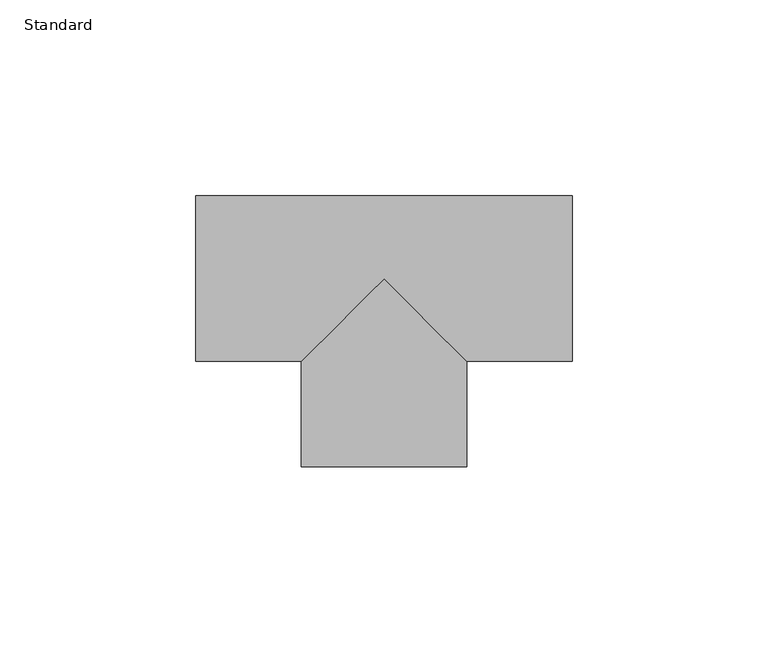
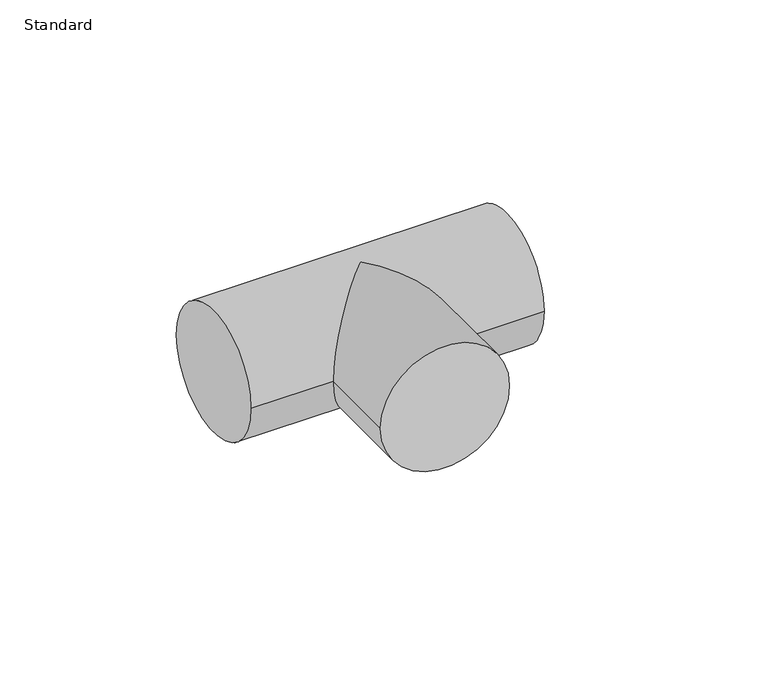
"""IFC4 building model written with IfcOpenShell, lengths in millimetres: pipe fitting geometry, Té - Générique : Standard."""

import ifcopenshell
import ifcopenshell.guid

model = None  # the IFC model being written
_history = None  # IfcOwnerHistory: only IFC2X3 demands one
_inside = {}  # id of a spatial element -> (the spatial element, [elements in it])
_under = {}  # id of a project, library or spatial element -> (it, [spatial elements below it])
_declared = {}  # id of a project -> (the project, [libraries it declares])
_typed = {}  # id of a type object -> (the type object, [elements of that type])
_made_of = {}  # id of a material, layer set ... -> (it, [elements and type objects made of it])


def new_model(schema):
    """Start an empty IFC model of exactly this schema.

    Asked for "IFC4X3", IfcOpenShell would pick the latest addendum, in which some entities
    have other attributes; the version numbers below select the first issue.
    IFC2X3 requires an IfcOwnerHistory on every rooted entity: one is made here for all.
    """
    global model, _history
    if schema == "IFC4X3":
        model = ifcopenshell.file(schema_version=(4, 3, 0, 0))
    else:
        model = ifcopenshell.file(schema=schema)
    _inside.clear()
    _under.clear()
    _declared.clear()
    _typed.clear()
    _made_of.clear()
    _history = None
    if model.schema == "IFC2X3":
        org = make("IfcOrganization", Name="unknown")
        user = make(
            "IfcPersonAndOrganization",
            ThePerson=make("IfcPerson", FamilyName="unknown"),
            TheOrganization=org,
        )
        app = make(
            "IfcApplication",
            ApplicationDeveloper=org,
            Version="unknown",
            ApplicationFullName="unknown",
            ApplicationIdentifier="unknown",
        )
        _history = make(
            "IfcOwnerHistory",
            OwningUser=user,
            OwningApplication=app,
            ChangeAction="ADDED",
            CreationDate=0,
        )
    return model


def make(cls, **values):
    """One entity of the class cls with the attributes given. An attribute that is None is left unset."""
    return model.create_entity(
        cls, **{name: value for name, value in values.items() if value is not None}
    )


def rooted(cls, **values):
    """An entity with a GlobalId (a new one), such as an element, a storey or a relation."""
    return make(cls, GlobalId=ifcopenshell.guid.new(), OwnerHistory=_history, **values)


def si_unit(unit_type, name, prefix=None):
    """IfcSIUnit, for example si_unit("LENGTHUNIT", "METRE", prefix="MILLI")."""
    return make("IfcSIUnit", UnitType=unit_type, Prefix=prefix, Name=name)


def assignment(units):
    """IfcUnitAssignment: the units of a project."""
    return None if units is None else make("IfcUnitAssignment", Units=units)


def point(xyz):
    """IfcCartesianPoint."""
    return None if xyz is None else make("IfcCartesianPoint", Coordinates=xyz)


def direction(xyz):
    """IfcDirection."""
    return None if xyz is None else make("IfcDirection", DirectionRatios=xyz)


def frame(location, z_axis=None, x_axis=None):
    """IfcAxis2Placement3D, a coordinate frame: its origin and axes. An axis left out is left unset."""
    return make(
        "IfcAxis2Placement3D",
        Location=point(location),
        Axis=direction(z_axis),
        RefDirection=direction(x_axis),
    )


def origin():
    """The frame at (0, 0, 0) with its axes left unset."""
    return frame((0.0, 0.0, 0.0))


def place(relative_to, where):
    """IfcLocalPlacement: puts the frame where relative to a parent placement (None: the world)."""
    return make(
        "IfcLocalPlacement", PlacementRelTo=relative_to, RelativePlacement=where
    )


def context(
    kind, dimensions, precision=None, world=None, true_north=None, identifier=None
):
    """IfcGeometricRepresentationContext, for example the 3D "Model" context."""
    return make(
        "IfcGeometricRepresentationContext",
        ContextIdentifier=identifier,
        ContextType=kind,
        CoordinateSpaceDimension=dimensions,
        Precision=precision,
        WorldCoordinateSystem=world,
        TrueNorth=true_north,
    )


def project(units=None, contexts=None):
    """IfcProject with its units and contexts."""
    return rooted(
        "IfcProject",
        Name="project",
        RepresentationContexts=contexts,
        UnitsInContext=assignment(units),
    )


def spatial(cls, under=None, at=None, **own):
    """A site, building, storey or space (cls), placed at a placement, below another one or the project."""
    s = rooted(cls, ObjectPlacement=at, **own)
    if under is not None:
        _under.setdefault(under.id(), (under, []))[1].append(s)
    return s


def circle_curve(where, radius):
    """IfcCircle in the frame where."""
    return make("IfcCircle", Position=where, Radius=radius)


def ellipse_curve(where, semi_axis1, semi_axis2):
    """IfcEllipse in the frame where."""
    return make(
        "IfcEllipse", Position=where, SemiAxis1=semi_axis1, SemiAxis2=semi_axis2
    )


def shape(context_of_items, identifier, shape_type, items):
    """IfcShapeRepresentation: the items that make up one representation, for example the "Body"."""
    return make(
        "IfcShapeRepresentation",
        ContextOfItems=context_of_items,
        RepresentationIdentifier=identifier,
        RepresentationType=shape_type,
        Items=items,
    )


def source(mapping_origin, context_of_items, identifier, shape_type, items):
    """IfcRepresentationMap: a shape defined once, which mapped items show again and again."""
    return make(
        "IfcRepresentationMap",
        MappingOrigin=mapping_origin,
        MappedRepresentation=shape(context_of_items, identifier, shape_type, items),
    )


def transform(
    local_origin,
    x_axis=None,
    y_axis=None,
    z_axis=None,
    scale=None,
    scale2=None,
    scale3=None,
    uniform=True,
):
    """IfcCartesianTransformationOperator3D, or its non-uniform kind. x_axis, y_axis, z_axis: its Axis1, 2, 3."""
    if uniform:
        return make(
            "IfcCartesianTransformationOperator3D",
            Axis1=direction(x_axis),
            Axis2=direction(y_axis),
            LocalOrigin=point(local_origin),
            Scale=scale,
            Axis3=direction(z_axis),
        )
    return make(
        "IfcCartesianTransformationOperator3DnonUniform",
        Axis1=direction(x_axis),
        Axis2=direction(y_axis),
        LocalOrigin=point(local_origin),
        Scale=scale,
        Axis3=direction(z_axis),
        Scale2=scale2,
        Scale3=scale3,
    )


def mapped(mapping_source, mapping_target):
    """IfcMappedItem: shows the shape of a source again, moved by a transform."""
    return make(
        "IfcMappedItem", MappingSource=mapping_source, MappingTarget=mapping_target
    )


def made_of(thing, what):
    """Note that an element or type object is made of a material, layer set ...; save() writes the relation."""
    if what is not None:
        _made_of.setdefault(what.id(), (what, []))[1].append(thing)
    return thing


def element(
    cls,
    number,
    at=None,
    inside=None,
    cuts=None,
    type_object=None,
    material=None,
    context=None,
    identifier="Body",
    shape_type=None,
    held_by="IfcProductDefinitionShape",
    body=None,
    shapes=None,
    **own,
):
    """One element of the class cls, such as IfcWall. Its Tag is "e" and its number.

    at: its placement. inside: the storey or other place that contains it. cuts: it is an
    opening in that element (IfcRelVoidsElement). A single representation is given by context,
    identifier, shape_type and body (its items); several are given by shapes. held_by: the class
    of the entity that holds the representations. save() writes the other relations.
    """
    e = rooted(cls, Tag="e%d" % number, ObjectPlacement=at, **own)
    if body is not None:
        shapes = [shape(context, identifier, shape_type, body)]
    if shapes is not None:
        e.Representation = make(held_by, Representations=shapes)
    if inside is not None:
        _inside.setdefault(inside.id(), (inside, []))[1].append(e)
    if cuts is not None:
        rooted(
            "IfcRelVoidsElement", RelatingBuildingElement=cuts, RelatedOpeningElement=e
        )
    if type_object is not None:
        _typed.setdefault(type_object.id(), (type_object, []))[1].append(e)
    return made_of(e, material)


def aggregate(whole, parts):
    """IfcRelAggregates: a whole, such as a stair, and the parts it consists of."""
    return rooted("IfcRelAggregates", RelatingObject=whole, RelatedObjects=parts)


def save(model, path):
    """Write the relations noted so far, then the file.

    IfcRelAggregates (storeys below a building ...), IfcRelContainedInSpatialStructure (elements
    in a storey), IfcRelDefinesByType, IfcRelAssociatesMaterial and IfcRelDeclares: one each for
    every whole, place, type object, material and project.
    """
    for whole, parts in _under.values():
        aggregate(whole, parts)
    for where, things in _inside.values():
        rooted(
            "IfcRelContainedInSpatialStructure",
            RelatedElements=things,
            RelatingStructure=where,
        )
    for kind, things in _typed.values():
        rooted("IfcRelDefinesByType", RelatedObjects=things, RelatingType=kind)
    for what, things in _made_of.values():
        rooted("IfcRelAssociatesMaterial", RelatedObjects=things, RelatingMaterial=what)
    for by, libraries in _declared.values():
        rooted("IfcRelDeclares", RelatingContext=by, RelatedDefinitions=libraries)
    model.write(path)


def plane_surface(at):
    """IfcPlane: the flat surface through the origin of the frame at, square to its z axis."""
    return make("IfcPlane", Position=at)


def cylinder_surface(at, radius):
    """IfcCylindricalSurface: all points at the distance radius from the z axis of the frame at."""
    return make("IfcCylindricalSurface", Position=at, Radius=radius)


def advanced_brep(points, edges, surfaces, faces):
    """IfcAdvancedBrep: a solid bounded by faces that lie on surfaces and meet in shared edges.

    An edge is (start, end): straight between two places in points (the first is 0);
    or (start, end, curve); or (start, end, curve, False) where it runs against its curve.
    A face is (place in surfaces, loops), or (place, loops, False) where it looks against
    its surface's normal. A loop lists edges by number (the first is 1), with a minus sign
    where the edge is run from its end to its start. The first loop is the outer one.
    """
    corners = [point(p) for p in points]
    vertices = [make("IfcVertexPoint", VertexGeometry=c) for c in corners]
    made = []
    for start, end, *more in edges:
        made.append(
            make(
                "IfcEdgeCurve",
                EdgeStart=vertices[start],
                EdgeEnd=vertices[end],
                EdgeGeometry=more[0] if more else make("IfcPolyline", Points=[corners[start], corners[end]]),
                SameSense=more[1] if len(more) > 1 else True,
            )
        )
    hull = []
    for where, loops, *sense in faces:
        bounds = []
        for j, loop in enumerate(loops):
            ring = [make("IfcOrientedEdge", EdgeElement=made[abs(k) - 1], Orientation=k > 0) for k in loop]
            bounds.append(
                make(
                    "IfcFaceOuterBound" if j == 0 else "IfcFaceBound",
                    Bound=make("IfcEdgeLoop", EdgeList=ring),
                    Orientation=True,
                )
            )
        hull.append(make("IfcAdvancedFace", Bounds=bounds, FaceSurface=surfaces[where], SameSense=sense[0] if sense else True))
    return make("IfcAdvancedBrep", Outer=make("IfcClosedShell", CfsFaces=hull))


def standard_e7c0512a(model_context):
    return source(origin(), model_context, "Body", "AdvancedBrep", [
        advanced_brep(
        [(-48.0, -21.1, 0.0), (-48.0, 21.1, 0.0), (48.0, -21.1, 0.0), (48.0, 21.1, 0.0), (-21.097498, -21.1, 0.0), (0.0, 0.0, 21.1), (21.1025022, -21.1, 0.0), (0.0, 0.0, -21.1), (-21.0943079, -48.0025018, 0.0), (21.1056918, -47.9974976, 0.0)],
        [
            (0, 1, circle_curve(frame((-48.0, 0.0, 0.0), z_axis=(-1.0, 0.0, 0.0), x_axis=(0.0, 1.0, 0.0)), 21.1)),
            (1, 0, circle_curve(frame((-48.0, 0.0, 0.0), z_axis=(-1.0, 0.0, 0.0), x_axis=(0.0, 1.0, 0.0)), 21.1)),
            (2, 3, circle_curve(frame((48.0, 0.0, 0.0), z_axis=(1.0, 0.0, 0.0), x_axis=(0.0, 1.0, 0.0)), 21.1)),
            (3, 2, circle_curve(frame((48.0, 0.0, 0.0), z_axis=(1.0, 0.0, 0.0), x_axis=(0.0, 1.0, 0.0)), 21.1)),
            (0, 4),
            (4, 5, ellipse_curve(frame((0.0, 0.0, 0.0), z_axis=(-0.7071487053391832, 0.7070648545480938, 0.0), x_axis=(-0.707064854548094, -0.7071487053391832, 0.0)), 29.8381371, 21.1)),
            (5, 6, ellipse_curve(frame((0.0, 0.0, 0.0), z_axis=(0.7070648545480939, 0.7071487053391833, 0.0), x_axis=(-0.7071487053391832, 0.7070648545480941, 0.0)), 29.8416756, 21.1)),
            (6, 2),
            (3, 1),
            (6, 7, ellipse_curve(frame((0.0, 0.0, 0.0), z_axis=(0.7070648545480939, 0.7071487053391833, 0.0), x_axis=(-0.7071487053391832, 0.7070648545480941, 0.0)), 29.8416756, 21.1)),
            (7, 4, ellipse_curve(frame((0.0, 0.0, 0.0), z_axis=(-0.7071487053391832, 0.7070648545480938, 0.0), x_axis=(-0.707064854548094, -0.7071487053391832, 0.0)), 29.8381371, 21.1)),
            (8, 9, circle_curve(frame((0.005692, -47.9999997, 0.0), z_axis=(0.00011858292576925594, -0.9999999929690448, 0.0), x_axis=(0.9999999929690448, 0.00011858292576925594, 0.0)), 21.1)),
            (9, 8, circle_curve(frame((0.005692, -47.9999997, 0.0), z_axis=(0.00011858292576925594, -0.9999999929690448, 0.0), x_axis=(0.9999999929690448, 0.00011858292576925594, 0.0)), 21.1)),
            (9, 6),
            (4, 8),
        ],
        [
            plane_surface(frame((-48.0, 0.0, 0.0), z_axis=(-1.0, 0.0, 0.0), x_axis=(0.0, 0.0, 1.0))),
            plane_surface(frame((48.0, 0.0, 0.0), z_axis=(1.0, 0.0, 0.0), x_axis=(0.0, 0.0, 1.0))),
            cylinder_surface(frame((-48.0, 0.0, 0.0), z_axis=(-1.0, 0.0, 0.0), x_axis=(0.0, 1.0, 0.0)), 21.1),
            plane_surface(frame((0.005692, -47.9999997, 0.0), z_axis=(0.00011858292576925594, -0.9999999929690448, 0.0), x_axis=(0.0, 0.0, 1.0))),
            cylinder_surface(frame((0.0, 0.0, 0.0), z_axis=(-0.00011858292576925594, 0.9999999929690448, 0.0), x_axis=(0.9999999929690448, 0.00011858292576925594, 0.0)), 21.1),
        ],
        [
            (0, [[1, 2]]),
            (1, [[3, 4]]),
            (2, [[-1, 5, 6, 7, 8, -4, 9]]),
            (2, [[-2, -9, -3, -8, 10, 11, -5]]),
            (3, [[12, 13]]),
            (4, [[-13, 14, -7, -6, 15]]),
            (4, [[-12, -15, -11, -10, -14]]),
        ],
    ),
    ])


if __name__ == "__main__":
    model = new_model("IFC4")
    model_context = context("Model", 3, world=origin())
    ifc_project = project(units=[si_unit("LENGTHUNIT", "METRE", prefix="MILLI")], contexts=[model_context])
    site = spatial("IfcSite", under=ifc_project)
    building = spatial("IfcBuilding", under=site)
    placement = place(None, origin())
    standard_shape = standard_e7c0512a(model_context)
    element("IfcPipeFitting", 1, ObjectType="Té - Générique : Standard", at=placement, inside=building, context=model_context, shape_type="MappedRepresentation", body=[
        mapped(standard_shape, transform((0.0, 0.0, 0.0), x_axis=(1.0, 0.0, 0.0), y_axis=(0.0, 1.0, 0.0), z_axis=(0.0, 0.0, 1.0))),
    ])
    save(model, "model.ifc")
